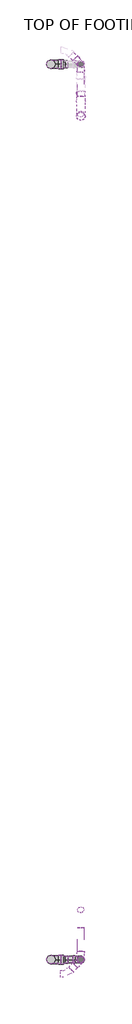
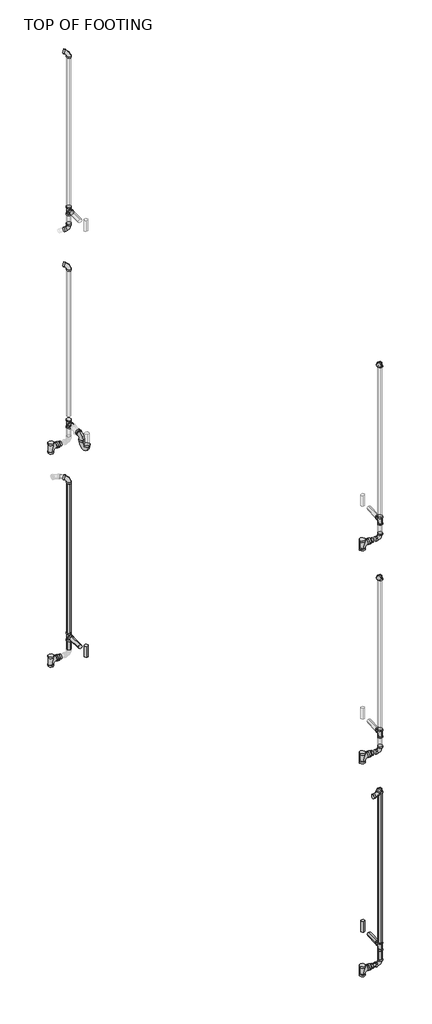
# One storey, part 1 of 8: 28 pipe fittings, 28 pipe segments.
"""IFC4 building model written with IfcOpenShell, lengths in millimetres."""

from ifc_helpers import new_model, si_unit, point, frame, frame_2d, origin, place, context, project, spatial, circle_curve, trimmed, segment, composite_curve, outline, extrude, transform, mapped, element, save
from components import bend_pvc_sch_40_dwv_standard_738aab8b, bend_pvc_sch_40_dwv_standard_9377f51f, bend_pvc_sch_40_dwv_standard_35af41d9, bend_pvc_sch_40_dwv_standard_e4da6302, bend_pvc_sch_40_dwv_standard_c28c2be1, reducer_pvc_sch_40_dwv_standard_b23fa098, reducer_pvc_sch_40_dwv_standard_f288b410, standard_73d07651, tee_sanitary_pvc_sch_40_dwv_standard_ad422280, tee_sanitary_pvc_sch_40_dwv_standard_7b7ecc20, tee_sanitary_pvc_sch_40_dwv_standard_3578d342, tee_sanitary_pvc_sch_40_dwv_standard_32d7fc6d

model = new_model("IFC4")

# Units and contexts
model_context = context("Model", 3, world=origin())
ifc_project = project(units=[si_unit("LENGTHUNIT", "METRE", prefix="MILLI")], contexts=[model_context])

# Site, building, storey
site = spatial("IfcSite", under=ifc_project)
building = spatial("IfcBuilding", under=site)
storey = spatial("IfcBuildingStorey", under=building, Name="TOP OF FOOTING", Elevation=-762.0)

# Pipe fittings
placement = place(None, origin())
bend_pvc_sch_40_dwv_standard_shape = bend_pvc_sch_40_dwv_standard_738aab8b(model_context)
element("IfcPipeFitting", 1, ObjectType="Bend - PVC - Sch 40 - DWV : Standard", at=placement, inside=storey, context=model_context, shape_type="MappedRepresentation", body=[
    mapped(bend_pvc_sch_40_dwv_standard_shape, transform((-4229.3040125, 8911.8581235, 6026.9617935), x_axis=(0.0, 0.0, -1.0), y_axis=(-1.0, 0.0, 0.0), z_axis=(0.0, 1.0, 0.0))),
])
bend_pvc_sch_40_dwv_standard_2_shape = bend_pvc_sch_40_dwv_standard_9377f51f(model_context)
element("IfcPipeFitting", 2, ObjectType="Bend - PVC - Sch 40 - DWV : Standard", at=placement, inside=storey, context=model_context, shape_type="MappedRepresentation", body=[
    mapped(bend_pvc_sch_40_dwv_standard_2_shape, transform((-4229.2912976, 8911.514858, 2682.6265087), x_axis=(0.0, 0.0, 1.0), y_axis=(-0.7070876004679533, 0.7071259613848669, 0.0), z_axis=(-0.7071259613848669, -0.7070876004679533, 0.0))),
])
element("IfcPipeFitting", 3, ObjectType="Bend - PVC - Sch 40 - DWV : Standard", at=placement, inside=storey, context=model_context, shape_type="MappedRepresentation", body=[
    mapped(bend_pvc_sch_40_dwv_standard_2_shape, transform((-4229.2912976, 8911.514858, 5527.4265087), x_axis=(0.0, 0.0, 1.0), y_axis=(-0.7070876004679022, 0.7071259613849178, 0.0), z_axis=(-0.7071259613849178, -0.7070876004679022, 0.0))),
])
element("IfcPipeFitting", 4, ObjectType="Bend - PVC - Sch 40 - DWV : Standard", at=placement, inside=storey, context=model_context, shape_type="MappedRepresentation", body=[
    mapped(bend_pvc_sch_40_dwv_standard_2_shape, transform((-4229.2947499, 8911.8595656, 8371.9619664), x_axis=(0.0, 0.0, 1.0), y_axis=(-0.7070876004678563, 0.7071259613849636, 0.0), z_axis=(-0.7071259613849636, -0.7070876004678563, 0.0))),
])
bend_pvc_sch_40_dwv_standard_3_shape = bend_pvc_sch_40_dwv_standard_35af41d9(model_context)
element("IfcPipeFitting", 5, ObjectType="Bend - PVC - Sch 40 - DWV : Standard", at=placement, inside=storey, context=model_context, shape_type="MappedRepresentation", body=[
    mapped(bend_pvc_sch_40_dwv_standard_3_shape, transform((-4229.3040125, 2089.7012881, 337.3617935), x_axis=(0.0, 0.0, -1.0), y_axis=(1.0, 0.0, 0.0), z_axis=(0.0, -1.0, 0.0))),
])
element("IfcPipeFitting", 6, ObjectType="Bend - PVC - Sch 40 - DWV : Standard", at=placement, inside=storey, context=model_context, shape_type="MappedRepresentation", body=[
    mapped(bend_pvc_sch_40_dwv_standard_3_shape, transform((-4229.3040125, 2089.7012881, 3182.1617935), x_axis=(0.0, 0.0, -1.0), y_axis=(1.0, 0.0, 0.0), z_axis=(0.0, -1.0, 0.0))),
])
element("IfcPipeFitting", 7, ObjectType="Bend - PVC - Sch 40 - DWV : Standard", at=placement, inside=storey, context=model_context, shape_type="MappedRepresentation", body=[
    mapped(bend_pvc_sch_40_dwv_standard_3_shape, transform((-4229.3040125, 2089.7012881, 6026.9617935), x_axis=(0.0, 0.0, -1.0), y_axis=(1.0, 0.0, 0.0), z_axis=(0.0, -1.0, 0.0))),
])
bend_pvc_sch_40_dwv_standard_4_shape = bend_pvc_sch_40_dwv_standard_e4da6302(model_context)
element("IfcPipeFitting", 8, ObjectType="Bend - PVC - Sch 40 - DWV : Standard", at=placement, inside=storey, context=model_context, shape_type="MappedRepresentation", body=[
    mapped(bend_pvc_sch_40_dwv_standard_4_shape, transform((-4229.2912976, 2089.6991493, 2682.6265087), x_axis=(0.0, 0.0, 1.0), y_axis=(0.7070876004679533, 0.7071259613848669, 0.0), z_axis=(-0.7071259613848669, 0.7070876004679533, 0.0))),
])
element("IfcPipeFitting", 9, ObjectType="Bend - PVC - Sch 40 - DWV : Standard", at=placement, inside=storey, context=model_context, shape_type="MappedRepresentation", body=[
    mapped(bend_pvc_sch_40_dwv_standard_4_shape, transform((-4229.2912976, 2089.6991493, 5527.4265087), x_axis=(0.0, 0.0, 1.0), y_axis=(0.7070876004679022, 0.7071259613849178, 0.0), z_axis=(-0.7071259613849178, 0.7070876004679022, 0.0))),
])
element("IfcPipeFitting", 10, ObjectType="Bend - PVC - Sch 40 - DWV : Standard", at=placement, inside=storey, context=model_context, shape_type="MappedRepresentation", body=[
    mapped(bend_pvc_sch_40_dwv_standard_4_shape, transform((-4229.2947499, 2089.699846, 8371.9619664), x_axis=(0.0, 0.0, 1.0), y_axis=(0.7070876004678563, 0.7071259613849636, 0.0), z_axis=(-0.7071259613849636, 0.7070876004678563, 0.0))),
])
bend_pvc_sch_40_dwv_standard_5_shape = bend_pvc_sch_40_dwv_standard_c28c2be1(model_context)
element("IfcPipeFitting", 11, ObjectType="Bend - PVC - Sch 40 - DWV : Standard", at=placement, inside=storey, context=model_context, shape_type="MappedRepresentation", body=[
    mapped(bend_pvc_sch_40_dwv_standard_5_shape, transform((-4337.0506636, 1981.9339371, 2683.7490021), x_axis=(-0.7070684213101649, -0.7071067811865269, 0.007365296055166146), y_axis=(0.7070684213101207, -0.7071067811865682, -0.007365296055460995), z_axis=(0.01041610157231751, 0.0, 0.9999457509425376))),
])
reducer_pvc_sch_40_dwv_standard_shape = reducer_pvc_sch_40_dwv_standard_b23fa098(model_context)
element("IfcPipeFitting", 12, ObjectType="Reducer - PVC - Sch 40 - DWV : Standard", at=placement, inside=storey, context=model_context, shape_type="MappedRepresentation", body=[
    mapped(reducer_pvc_sch_40_dwv_standard_shape, transform((-4379.3154518, 2089.7012881, 337.3617935), x_axis=(1.0, 0.0, 0.0), y_axis=(0.0, 1.0, 0.0), z_axis=(0.0, 0.0, 1.0))),
])
element("IfcPipeFitting", 13, ObjectType="Reducer - PVC - Sch 40 - DWV : Standard", at=placement, inside=storey, context=model_context, shape_type="MappedRepresentation", body=[
    mapped(reducer_pvc_sch_40_dwv_standard_shape, transform((-4379.3154518, 2089.7012881, 3182.1617935), x_axis=(1.0, 0.0, 0.0), y_axis=(0.0, 1.0, 0.0), z_axis=(0.0, 0.0, 1.0))),
])
element("IfcPipeFitting", 14, ObjectType="Reducer - PVC - Sch 40 - DWV : Standard", at=placement, inside=storey, context=model_context, shape_type="MappedRepresentation", body=[
    mapped(reducer_pvc_sch_40_dwv_standard_shape, transform((-4379.3154518, 2089.7012881, 6026.9617935), x_axis=(1.0, 0.0, 0.0), y_axis=(0.0, 1.0, 0.0), z_axis=(0.0, 0.0, 1.0))),
])
reducer_pvc_sch_40_dwv_standard_2_shape = reducer_pvc_sch_40_dwv_standard_f288b410(model_context)
element("IfcPipeFitting", 15, ObjectType="Reducer - PVC - Sch 40 - DWV : Standard", at=placement, inside=storey, context=model_context, shape_type="MappedRepresentation", body=[
    mapped(reducer_pvc_sch_40_dwv_standard_2_shape, transform((-4380.9038125, 8911.2827391, 337.3617935), x_axis=(1.0, 0.0, 0.0), y_axis=(0.0, 1.0, 0.0), z_axis=(0.0, 0.0, 1.0))),
])
element("IfcPipeFitting", 16, ObjectType="Reducer - PVC - Sch 40 - DWV : Standard", at=placement, inside=storey, context=model_context, shape_type="MappedRepresentation", body=[
    mapped(reducer_pvc_sch_40_dwv_standard_2_shape, transform((-4380.9038125, 8911.2827391, 3182.1617935), x_axis=(1.0, 0.0, 0.0), y_axis=(0.0, 1.0, 0.0), z_axis=(0.0, 0.0, 1.0))),
])
standard_shape = standard_73d07651(model_context)
element("IfcPipeFitting", 17, ObjectType="GES P TRAP PVC Sch 40 - DWV : Standard", at=placement, inside=storey, context=model_context, shape_type="MappedRepresentation", body=[
    mapped(standard_shape, transform((-4229.3040125, 8514.6387881, 3423.4617935), x_axis=(0.0, 0.0, -1.0), y_axis=(0.0, 1.0, 0.0), z_axis=(1.0, 0.0, 0.0))),
])
tee_sanitary_pvc_sch_40_dwv_standard_shape = tee_sanitary_pvc_sch_40_dwv_standard_ad422280(model_context)
element("IfcPipeFitting", 18, ObjectType="Tee Sanitary - PVC - Sch 40 - DWV : Standard", at=placement, inside=storey, context=model_context, shape_type="MappedRepresentation", body=[
    mapped(tee_sanitary_pvc_sch_40_dwv_standard_shape, transform((-4229.3040125, 8911.8581235, 6267.6170389), x_axis=(0.0, 0.0, 1.0), y_axis=(0.0, 1.0, 0.0), z_axis=(-1.0, 0.0, 0.0))),
])
element("IfcPipeFitting", 19, ObjectType="Tee Sanitary - PVC - Sch 40 - DWV : Standard", at=placement, inside=storey, context=model_context, shape_type="MappedRepresentation", body=[
    mapped(tee_sanitary_pvc_sch_40_dwv_standard_shape, transform((-4229.3040125, 8911.5127193, 3422.8170389), x_axis=(0.0, 0.0, 1.0), y_axis=(0.0, 1.0, 0.0), z_axis=(-1.0, 0.0, 0.0))),
])
element("IfcPipeFitting", 20, ObjectType="Tee Sanitary - PVC - Sch 40 - DWV : Standard", at=placement, inside=storey, context=model_context, shape_type="MappedRepresentation", body=[
    mapped(tee_sanitary_pvc_sch_40_dwv_standard_shape, transform((-4229.3040125, 8911.5127193, 578.0170389), x_axis=(0.0, 0.0, 1.0), y_axis=(0.0, 1.0, 0.0), z_axis=(-1.0, 0.0, 0.0))),
])
tee_sanitary_pvc_sch_40_dwv_standard_2_shape = tee_sanitary_pvc_sch_40_dwv_standard_7b7ecc20(model_context)
element("IfcPipeFitting", 21, ObjectType="Tee Sanitary - PVC - Sch 40 - DWV : Standard", at=placement, inside=storey, context=model_context, shape_type="MappedRepresentation", body=[
    mapped(tee_sanitary_pvc_sch_40_dwv_standard_2_shape, transform((-4458.7004914, 8911.2513726, 337.3617935), x_axis=(0.0, 0.0, 1.0), y_axis=(-1.0, 0.0, 0.0), z_axis=(0.0, -1.0, 0.0))),
])
element("IfcPipeFitting", 22, ObjectType="Tee Sanitary - PVC - Sch 40 - DWV : Standard", at=placement, inside=storey, context=model_context, shape_type="MappedRepresentation", body=[
    mapped(tee_sanitary_pvc_sch_40_dwv_standard_2_shape, transform((-4458.7004914, 8911.2513726, 3182.1617935), x_axis=(0.0, 0.0, 1.0), y_axis=(-1.0, 0.0, 0.0), z_axis=(0.0, -1.0, 0.0))),
])
tee_sanitary_pvc_sch_40_dwv_standard_3_shape = tee_sanitary_pvc_sch_40_dwv_standard_3578d342(model_context)
element("IfcPipeFitting", 23, ObjectType="Tee Sanitary - PVC - Sch 40 - DWV : Standard", at=placement, inside=storey, context=model_context, shape_type="MappedRepresentation", body=[
    mapped(tee_sanitary_pvc_sch_40_dwv_standard_3_shape, transform((-4229.3040125, 2089.7012881, 6267.6170389), x_axis=(0.0, 0.0, 1.0), y_axis=(0.0, 1.0, 0.0), z_axis=(-1.0, 0.0, 0.0))),
])
element("IfcPipeFitting", 24, ObjectType="Tee Sanitary - PVC - Sch 40 - DWV : Standard", at=placement, inside=storey, context=model_context, shape_type="MappedRepresentation", body=[
    mapped(tee_sanitary_pvc_sch_40_dwv_standard_3_shape, transform((-4229.3040125, 2089.7012881, 3422.8170389), x_axis=(0.0, 0.0, 1.0), y_axis=(0.0, 1.0, 0.0), z_axis=(-1.0, 0.0, 0.0))),
])
element("IfcPipeFitting", 25, ObjectType="Tee Sanitary - PVC - Sch 40 - DWV : Standard", at=placement, inside=storey, context=model_context, shape_type="MappedRepresentation", body=[
    mapped(tee_sanitary_pvc_sch_40_dwv_standard_3_shape, transform((-4229.3040125, 2089.7012881, 578.0170389), x_axis=(0.0, 0.0, 1.0), y_axis=(0.0, 1.0, 0.0), z_axis=(-1.0, 0.0, 0.0))),
])
tee_sanitary_pvc_sch_40_dwv_standard_4_shape = tee_sanitary_pvc_sch_40_dwv_standard_32d7fc6d(model_context)
element("IfcPipeFitting", 26, ObjectType="Tee Sanitary - PVC - Sch 40 - DWV : Standard", at=placement, inside=storey, context=model_context, shape_type="MappedRepresentation", body=[
    mapped(tee_sanitary_pvc_sch_40_dwv_standard_4_shape, transform((-4457.3676583, 2089.8980394, 337.3617935), x_axis=(0.0, 0.0, 1.0), y_axis=(1.0, 0.0, 0.0), z_axis=(0.0, 1.0, 0.0))),
])
element("IfcPipeFitting", 27, ObjectType="Tee Sanitary - PVC - Sch 40 - DWV : Standard", at=placement, inside=storey, context=model_context, shape_type="MappedRepresentation", body=[
    mapped(tee_sanitary_pvc_sch_40_dwv_standard_4_shape, transform((-4457.3676583, 2089.8980394, 3182.1617935), x_axis=(0.0, 0.0, 1.0), y_axis=(1.0, 0.0, 0.0), z_axis=(0.0, 1.0, 0.0))),
])
element("IfcPipeFitting", 28, ObjectType="Tee Sanitary - PVC - Sch 40 - DWV : Standard", at=placement, inside=storey, context=model_context, shape_type="MappedRepresentation", body=[
    mapped(tee_sanitary_pvc_sch_40_dwv_standard_4_shape, transform((-4457.3676583, 2089.8980394, 6026.9617935), x_axis=(0.0, 0.0, 1.0), y_axis=(1.0, 0.0, 0.0), z_axis=(0.0, 1.0, 0.0))),
])

# Pipe segments
element("IfcPipeSegment", 29, ObjectType="PVC - SAN/STORM", at=placement, inside=storey, context=model_context, shape_type="SweptSolid", body=[
    extrude(outline(composite_curve([segment(trimmed(circle_curve(frame_2d((6268.2617935, -4229.3040125)), 24.13), [point((6268.2617935, -4205.1740125))], [point((6292.3917935, -4229.3040125))], False, "CARTESIAN"), True, "CONTINUOUS"), segment(trimmed(circle_curve(frame_2d((6268.2617935, -4229.3040125)), 24.13), [point((6292.3917935, -4229.3040125))], [point((6268.2617935, -4253.4340125))], False, "CARTESIAN"), True, "CONTINUOUS"), segment(trimmed(circle_curve(frame_2d((6268.2617935, -4229.3040125)), 24.13), [point((6268.2617935, -4253.4340125))], [point((6244.1317935, -4229.3040125))], False, "CARTESIAN"), True, "CONTINUOUS"), segment(trimmed(circle_curve(frame_2d((6268.2617935, -4229.3040125)), 24.13), [point((6244.1317935, -4229.3040125))], [point((6268.2617935, -4205.1740125))], False, "CARTESIAN"), True, "CONTINUOUS")], self_intersect=False)), frame((0.0, 8665.4385881, 0.0), z_axis=(0.0, 1.0, 0.0), x_axis=(0.0, 0.0, 1.0)), (0.0, 0.0, 1.0), 184.5230934),
])
element("IfcPipeSegment", 30, ObjectType="PVC - SAN/STORM", at=placement, inside=storey, context=model_context, shape_type="SweptSolid", body=[
    extrude(outline(composite_curve([segment(trimmed(circle_curve(frame_2d((-4229.3040125, 8530.5137881)), 24.13), [point((-4253.4340125, 8530.5137881))], [point((-4229.3040125, 8554.6437881))], False, "CARTESIAN"), True, "CONTINUOUS"), segment(trimmed(circle_curve(frame_2d((-4229.3040125, 8530.5137881)), 24.13), [point((-4229.3040125, 8554.6437881))], [point((-4205.1740125, 8530.5137881))], False, "CARTESIAN"), True, "CONTINUOUS"), segment(trimmed(circle_curve(frame_2d((-4229.3040125, 8530.5137881)), 24.13), [point((-4205.1740125, 8530.5137881))], [point((-4229.3040125, 8506.3837881))], False, "CARTESIAN"), True, "CONTINUOUS"), segment(trimmed(circle_curve(frame_2d((-4229.3040125, 8530.5137881)), 24.13), [point((-4229.3040125, 8506.3837881))], [point((-4253.4340125, 8530.5137881))], False, "CARTESIAN"), True, "CONTINUOUS")], self_intersect=False)), frame((0.0, 0.0, 6223.7990935), z_axis=(0.0, 0.0, 1.0), x_axis=(1.0, 0.0, 0.0)), (0.0, 0.0, 1.0), 141.6019923),
])
element("IfcPipeSegment", 31, ObjectType="PVC - SAN/STORM", at=placement, inside=storey, context=model_context, shape_type="SweptSolid", body=[
    extrude(outline(composite_curve([segment(trimmed(circle_curve(frame_2d((-4229.3040125, 8911.8581235)), 24.13), [point((-4205.1740125, 8911.8581235))], [point((-4229.3040125, 8887.7281235))], False, "CARTESIAN"), True, "CONTINUOUS"), segment(trimmed(circle_curve(frame_2d((-4229.3040125, 8911.8581235)), 24.13), [point((-4229.3040125, 8887.7281235))], [point((-4253.4340125, 8911.8581235))], False, "CARTESIAN"), True, "CONTINUOUS"), segment(trimmed(circle_curve(frame_2d((-4229.3040125, 8911.8581235)), 24.13), [point((-4253.4340125, 8911.8581235))], [point((-4229.3040125, 8935.9881235))], False, "CARTESIAN"), True, "CONTINUOUS"), segment(trimmed(circle_curve(frame_2d((-4229.3040125, 8911.8581235)), 24.13), [point((-4229.3040125, 8935.9881235))], [point((-4205.1740125, 8911.8581235))], False, "CARTESIAN"), True, "CONTINUOUS")], self_intersect=False)), frame((0.0, 0.0, 6088.8615935), z_axis=(0.0, 0.0, 1.0), x_axis=(1.0, 0.0, 0.0)), (0.0, 0.0, 1.0), 116.8556454),
])
element("IfcPipeSegment", 32, ObjectType="PVC - SAN/STORM", at=placement, inside=storey, context=model_context, shape_type="SweptSolid", body=[
    extrude(outline(composite_curve([segment(trimmed(circle_curve(frame_2d((0.0, 24.13)), 24.13), [point((-24.13, 24.13))], [point((0.0, 48.26))], False, "CARTESIAN"), True, "CONTINUOUS"), segment(trimmed(circle_curve(frame_2d((0.0, 24.13)), 24.13), [point((0.0, 48.26))], [point((24.13, 24.13))], False, "CARTESIAN"), True, "CONTINUOUS"), segment(trimmed(circle_curve(frame_2d((0.0, 24.13)), 24.13), [point((24.13, 24.13))], [point((0.0, 0.0))], False, "CARTESIAN"), True, "CONTINUOUS"), segment(trimmed(circle_curve(frame_2d((0.0, 24.13)), 24.13), [point((0.0, 0.0))], [point((-24.13, 24.13))], False, "CARTESIAN"), True, "CONTINUOUS")], self_intersect=False)), frame((-4229.3040125, 8887.7281235, 6313.8112177), z_axis=(4.640019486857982e-06, 7.223967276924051e-07, 0.9999999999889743), x_axis=(0.9999999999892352, -3.350208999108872e-12, -4.640019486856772e-06)), (0.0, 0.0, 1.0), 1996.2509661),
])
element("IfcPipeSegment", 33, ObjectType="PVC - SAN/STORM", at=placement, inside=storey, context=model_context, shape_type="SweptSolid", body=[
    extrude(outline(composite_curve([segment(trimmed(circle_curve(frame_2d((-4229.3040125, 8514.6387881)), 30.1625), [point((-4259.4665125, 8514.6387881))], [point((-4229.3040125, 8544.8012881))], False, "CARTESIAN"), True, "CONTINUOUS"), segment(trimmed(circle_curve(frame_2d((-4229.3040125, 8514.6387881)), 30.1625), [point((-4229.3040125, 8544.8012881))], [point((-4199.1415125, 8514.6387881))], False, "CARTESIAN"), True, "CONTINUOUS"), segment(trimmed(circle_curve(frame_2d((-4229.3040125, 8514.6387881)), 30.1625), [point((-4199.1415125, 8514.6387881))], [point((-4229.3040125, 8484.4762881))], False, "CARTESIAN"), True, "CONTINUOUS"), segment(trimmed(circle_curve(frame_2d((-4229.3040125, 8514.6387881)), 30.1625), [point((-4229.3040125, 8484.4762881))], [point((-4259.4665125, 8514.6387881))], False, "CARTESIAN"), True, "CONTINUOUS")], self_intersect=False)), frame((0.0, 0.0, 3375.8367935), z_axis=(0.0, 0.0, 1.0), x_axis=(1.0, 0.0, 0.0)), (0.0, 0.0, 1.0), 144.7642923),
])
element("IfcPipeSegment", 34, ObjectType="PVC - SAN/STORM", at=placement, inside=storey, context=model_context, shape_type="SweptSolid", body=[
    extrude(outline(composite_curve([segment(trimmed(circle_curve(frame_2d((0.0, 24.13)), 24.13), [point((24.13, 24.13))], [point((0.0, 0.0))], False, "CARTESIAN"), True, "CONTINUOUS"), segment(trimmed(circle_curve(frame_2d((0.0, 24.13)), 24.13), [point((0.0, 0.0))], [point((-24.13, 24.13))], False, "CARTESIAN"), True, "CONTINUOUS"), segment(trimmed(circle_curve(frame_2d((0.0, 24.13)), 24.13), [point((-24.13, 24.13))], [point((0.0, 48.26))], False, "CARTESIAN"), True, "CONTINUOUS"), segment(trimmed(circle_curve(frame_2d((0.0, 24.13)), 24.13), [point((0.0, 48.26))], [point((24.13, 24.13))], False, "CARTESIAN"), True, "CONTINUOUS")], self_intersect=False)), frame((-4229.3040125, 8887.1527858, 3244.109083), z_axis=(0.0, 0.001968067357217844, 0.9999980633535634), x_axis=(1.0, 0.0, 0.0)), (0.0, 0.0, 1.0), 116.8558717),
])
element("IfcPipeSegment", 35, ObjectType="PVC - SAN/STORM", at=placement, inside=storey, context=model_context, shape_type="SweptSolid", body=[
    extrude(outline(composite_curve([segment(trimmed(circle_curve(frame_2d((0.0, -24.13)), 24.13), [point((-24.13, -24.13))], [point((0.0, 0.0))], False, "CARTESIAN"), True, "CONTINUOUS"), segment(trimmed(circle_curve(frame_2d((0.0, -24.13)), 24.13), [point((0.0, 0.0))], [point((24.13, -24.13))], False, "CARTESIAN"), True, "CONTINUOUS"), segment(trimmed(circle_curve(frame_2d((0.0, -24.13)), 24.13), [point((24.13, -24.13))], [point((0.0, -48.26))], False, "CARTESIAN"), True, "CONTINUOUS"), segment(trimmed(circle_curve(frame_2d((0.0, -24.13)), 24.13), [point((0.0, -48.26))], [point((-24.13, -24.13))], False, "CARTESIAN"), True, "CONTINUOUS")], self_intersect=False)), frame((-4229.2909033, 8887.3827748, 3520.8265346), z_axis=(-2.0271197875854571e-07, 1.0712312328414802e-06, 0.9999999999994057), x_axis=(-0.9999999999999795, 0.0, -2.0271197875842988e-07)), (0.0, 0.0, 1.0), 1944.7002),
])
element("IfcPipeSegment", 36, ObjectType="PVC - SAN/STORM", at=placement, inside=storey, context=model_context, shape_type="SweptSolid", body=[
    extrude(outline(composite_curve([segment(trimmed(circle_curve(frame_2d((578.6617935, -4229.3040125)), 24.13), [point((578.6617935, -4205.1740125))], [point((602.7917935, -4229.3040125))], False, "CARTESIAN"), True, "CONTINUOUS"), segment(trimmed(circle_curve(frame_2d((578.6617935, -4229.3040125)), 24.13), [point((602.7917935, -4229.3040125))], [point((578.6617935, -4253.4340125))], False, "CARTESIAN"), True, "CONTINUOUS"), segment(trimmed(circle_curve(frame_2d((578.6617935, -4229.3040125)), 24.13), [point((578.6617935, -4253.4340125))], [point((554.5317935, -4229.3040125))], False, "CARTESIAN"), True, "CONTINUOUS"), segment(trimmed(circle_curve(frame_2d((578.6617935, -4229.3040125)), 24.13), [point((554.5317935, -4229.3040125))], [point((578.6617935, -4205.1740125))], False, "CARTESIAN"), True, "CONTINUOUS")], self_intersect=False)), frame((0.0, 8665.4385881, 0.0), z_axis=(0.0, 1.0, 0.0), x_axis=(0.0, 0.0, 1.0)), (0.0, 0.0, 1.0), 184.1776893),
])
element("IfcPipeSegment", 37, ObjectType="PVC - SAN/STORM", at=placement, inside=storey, context=model_context, shape_type="SweptSolid", body=[
    extrude(outline(composite_curve([segment(trimmed(circle_curve(frame_2d((-4229.3040125, 8530.5137881)), 24.13), [point((-4253.4340125, 8530.5137881))], [point((-4229.3040125, 8554.6437881))], False, "CARTESIAN"), True, "CONTINUOUS"), segment(trimmed(circle_curve(frame_2d((-4229.3040125, 8530.5137881)), 24.13), [point((-4229.3040125, 8554.6437881))], [point((-4205.1740125, 8530.5137881))], False, "CARTESIAN"), True, "CONTINUOUS"), segment(trimmed(circle_curve(frame_2d((-4229.3040125, 8530.5137881)), 24.13), [point((-4205.1740125, 8530.5137881))], [point((-4229.3040125, 8506.3837881))], False, "CARTESIAN"), True, "CONTINUOUS"), segment(trimmed(circle_curve(frame_2d((-4229.3040125, 8530.5137881)), 24.13), [point((-4229.3040125, 8506.3837881))], [point((-4253.4340125, 8530.5137881))], False, "CARTESIAN"), True, "CONTINUOUS")], self_intersect=False)), frame((0.0, 0.0, 534.1990935), z_axis=(0.0, 0.0, 1.0), x_axis=(1.0, 0.0, 0.0)), (0.0, 0.0, 1.0), 141.6019923),
])
element("IfcPipeSegment", 38, ObjectType="PVC - SAN/STORM", at=placement, inside=storey, context=model_context, shape_type="SweptSolid", body=[
    extrude(outline(composite_curve([segment(trimmed(circle_curve(frame_2d((0.0, 24.13)), 24.13), [point((24.13, 24.13))], [point((0.0, 0.0))], False, "CARTESIAN"), True, "CONTINUOUS"), segment(trimmed(circle_curve(frame_2d((0.0, 24.13)), 24.13), [point((0.0, 0.0))], [point((-24.13, 24.13))], False, "CARTESIAN"), True, "CONTINUOUS"), segment(trimmed(circle_curve(frame_2d((0.0, 24.13)), 24.13), [point((-24.13, 24.13))], [point((0.0, 48.26))], False, "CARTESIAN"), True, "CONTINUOUS"), segment(trimmed(circle_curve(frame_2d((0.0, 24.13)), 24.13), [point((0.0, 48.26))], [point((24.13, 24.13))], False, "CARTESIAN"), True, "CONTINUOUS")], self_intersect=False)), frame((-4229.3040125, 8887.1527858, 399.309083), z_axis=(0.0, 0.0019680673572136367, 0.9999980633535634), x_axis=(1.0, 0.0, 0.0)), (0.0, 0.0, 1.0), 116.8558717),
])
element("IfcPipeSegment", 39, ObjectType="PVC - SAN/STORM", at=placement, inside=storey, context=model_context, shape_type="SweptSolid", body=[
    extrude(outline(composite_curve([segment(trimmed(circle_curve(frame_2d((0.0, 24.13)), 24.13), [point((-24.13, 24.13))], [point((0.0, 48.26))], False, "CARTESIAN"), True, "CONTINUOUS"), segment(trimmed(circle_curve(frame_2d((0.0, 24.13)), 24.13), [point((0.0, 48.26))], [point((24.13, 24.13))], False, "CARTESIAN"), True, "CONTINUOUS"), segment(trimmed(circle_curve(frame_2d((0.0, 24.13)), 24.13), [point((24.13, 24.13))], [point((0.0, 0.0))], False, "CARTESIAN"), True, "CONTINUOUS"), segment(trimmed(circle_curve(frame_2d((0.0, 24.13)), 24.13), [point((0.0, 0.0))], [point((-24.13, 24.13))], False, "CARTESIAN"), True, "CONTINUOUS")], self_intersect=False)), frame((-4229.3040125, 8887.3827193, 624.2112262), z_axis=(6.368583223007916e-06, 1.0712312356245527e-06, 0.9999999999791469), x_axis=(0.9999999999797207, -6.8212102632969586e-12, -6.368583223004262e-06)), (0.0, 0.0, 1.0), 1996.5155084),
])
element("IfcPipeSegment", 40, ObjectType="PVC - SAN/STORM", at=placement, inside=storey, context=model_context, shape_type="SweptSolid", body=[
    extrude(outline(composite_curve([segment(trimmed(circle_curve(frame_2d((0.0, 24.13)), 24.13), [point((24.1293456, 24.3077101))], [point((0.1777101, 0.0006544))], False, "CARTESIAN"), True, "CONTINUOUS"), segment(trimmed(circle_curve(frame_2d((0.0, 24.13)), 24.13), [point((0.1777101, 0.0006544))], [point((-24.1293456, 23.9522899))], False, "CARTESIAN"), True, "CONTINUOUS"), segment(trimmed(circle_curve(frame_2d((0.0, 24.13)), 24.13), [point((-24.1293456, 23.9522899))], [point((-0.1777102, 48.2593456))], False, "CARTESIAN"), True, "CONTINUOUS"), segment(trimmed(circle_curve(frame_2d((0.0, 24.13)), 24.13), [point((-0.1777102, 48.2593456))], [point((24.1293456, 24.3077101))], False, "CARTESIAN"), True, "CONTINUOUS")], self_intersect=False)), frame((-4273.0586914, 8955.0332995, 2707.2111102), z_axis=(-0.7070684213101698, 0.7071067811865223, 0.007365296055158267), x_axis=(0.7071451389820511, 0.7070300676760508, 0.007364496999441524)), (0.0, 0.0, 1.0), 42.234872),
])
element("IfcPipeSegment", 41, ObjectType="PVC - SAN/STORM", at=placement, inside=storey, context=model_context, shape_type="SweptSolid", body=[
    extrude(outline(composite_curve([segment(trimmed(circle_curve(frame_2d((0.0, -24.13)), 24.13), [point((-24.13, -24.13))], [point((0.0, 0.0))], False, "CARTESIAN"), True, "CONTINUOUS"), segment(trimmed(circle_curve(frame_2d((0.0, -24.13)), 24.13), [point((0.0, 0.0))], [point((24.13, -24.13))], False, "CARTESIAN"), True, "CONTINUOUS"), segment(trimmed(circle_curve(frame_2d((0.0, -24.13)), 24.13), [point((24.13, -24.13))], [point((0.0, -48.2600001))], False, "CARTESIAN"), True, "CONTINUOUS"), segment(trimmed(circle_curve(frame_2d((0.0, -24.13)), 24.13), [point((0.0, -48.2600001))], [point((-24.13, -24.13))], False, "CARTESIAN"), True, "CONTINUOUS")], self_intersect=False)), frame((-4229.3040125, 2151.8490706, 6244.1331025), z_axis=(0.0, 0.9999457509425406, 0.01041610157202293), x_axis=(1.0, 0.0, 0.0)), (0.0, 0.0, 1.0), 182.6011639),
])
element("IfcPipeSegment", 42, ObjectType="PVC - SAN/STORM", at=placement, inside=storey, context=model_context, shape_type="SweptSolid", body=[
    extrude(outline(composite_curve([segment(trimmed(circle_curve(frame_2d((-4229.3040125, 2469.1137881)), 24.13), [point((-4253.4340125, 2469.1137881))], [point((-4229.3040125, 2493.2437881))], False, "CARTESIAN"), True, "CONTINUOUS"), segment(trimmed(circle_curve(frame_2d((-4229.3040125, 2469.1137881)), 24.13), [point((-4229.3040125, 2493.2437881))], [point((-4205.1740125, 2469.1137881))], False, "CARTESIAN"), True, "CONTINUOUS"), segment(trimmed(circle_curve(frame_2d((-4229.3040125, 2469.1137881)), 24.13), [point((-4205.1740125, 2469.1137881))], [point((-4229.3040125, 2444.9837881))], False, "CARTESIAN"), True, "CONTINUOUS"), segment(trimmed(circle_curve(frame_2d((-4229.3040125, 2469.1137881)), 24.13), [point((-4229.3040125, 2444.9837881))], [point((-4253.4340125, 2469.1137881))], False, "CARTESIAN"), True, "CONTINUOUS")], self_intersect=False)), frame((0.0, 0.0, 6225.7010858), z_axis=(0.0, 0.0, 1.0), x_axis=(1.0, 0.0, 0.0)), (0.0, 0.0, 1.0), 139.7),
])
element("IfcPipeSegment", 43, ObjectType="PVC - SAN/STORM", at=placement, inside=storey, context=model_context, shape_type="SweptSolid", body=[
    extrude(outline(composite_curve([segment(trimmed(circle_curve(frame_2d((2089.7012881, 6026.9617935)), 24.13), [point((2113.8312881, 6026.9617935))], [point((2089.7012881, 6002.8317935))], False, "CARTESIAN"), True, "CONTINUOUS"), segment(trimmed(circle_curve(frame_2d((2089.7012881, 6026.9617935)), 24.13), [point((2089.7012881, 6002.8317935))], [point((2065.5712881, 6026.9617935))], False, "CARTESIAN"), True, "CONTINUOUS"), segment(trimmed(circle_curve(frame_2d((2089.7012881, 6026.9617935)), 24.13), [point((2065.5712881, 6026.9617935))], [point((2089.7012881, 6051.0917935))], False, "CARTESIAN"), True, "CONTINUOUS"), segment(trimmed(circle_curve(frame_2d((2089.7012881, 6026.9617935)), 24.13), [point((2089.7012881, 6051.0917935))], [point((2113.8312881, 6026.9617935))], False, "CARTESIAN"), True, "CONTINUOUS")], self_intersect=False)), frame((-4329.3282518, 0.0, 0.0), z_axis=(1.0, 0.0, 0.0), x_axis=(0.0, 1.0, 0.0)), (0.0, 0.0, 1.0), 38.1244393),
])
element("IfcPipeSegment", 44, ObjectType="PVC - SAN/STORM", at=placement, inside=storey, context=model_context, shape_type="SweptSolid", body=[
    extrude(outline(composite_curve([segment(trimmed(circle_curve(frame_2d((-4229.3040125, 2089.7012881)), 24.13), [point((-4205.1740125, 2089.7012881))], [point((-4229.3040125, 2065.5712881))], False, "CARTESIAN"), True, "CONTINUOUS"), segment(trimmed(circle_curve(frame_2d((-4229.3040125, 2089.7012881)), 24.13), [point((-4229.3040125, 2065.5712881))], [point((-4253.4340125, 2089.7012881))], False, "CARTESIAN"), True, "CONTINUOUS"), segment(trimmed(circle_curve(frame_2d((-4229.3040125, 2089.7012881)), 24.13), [point((-4253.4340125, 2089.7012881))], [point((-4229.3040125, 2113.8312881))], False, "CARTESIAN"), True, "CONTINUOUS"), segment(trimmed(circle_curve(frame_2d((-4229.3040125, 2089.7012881)), 24.13), [point((-4229.3040125, 2113.8312881))], [point((-4205.1740125, 2089.7012881))], False, "CARTESIAN"), True, "CONTINUOUS")], self_intersect=False)), frame((0.0, 0.0, 6088.8615935), z_axis=(0.0, 0.0, 1.0), x_axis=(1.0, 0.0, 0.0)), (0.0, 0.0, 1.0), 116.8556454),
])
element("IfcPipeSegment", 45, ObjectType="PVC - SAN/STORM", at=placement, inside=storey, context=model_context, shape_type="SweptSolid", body=[
    extrude(outline(composite_curve([segment(trimmed(circle_curve(frame_2d((0.0, 24.13)), 24.13), [point((-24.13, 24.13))], [point((0.0, 48.26))], False, "CARTESIAN"), True, "CONTINUOUS"), segment(trimmed(circle_curve(frame_2d((0.0, 24.13)), 24.13), [point((0.0, 48.26))], [point((24.13, 24.13))], False, "CARTESIAN"), True, "CONTINUOUS"), segment(trimmed(circle_curve(frame_2d((0.0, 24.13)), 24.13), [point((24.13, 24.13))], [point((0.0, 0.0))], False, "CARTESIAN"), True, "CONTINUOUS"), segment(trimmed(circle_curve(frame_2d((0.0, 24.13)), 24.13), [point((0.0, 0.0))], [point((-24.13, 24.13))], False, "CARTESIAN"), True, "CONTINUOUS")], self_intersect=False)), frame((-4229.3040125, 2065.5712881, 6313.8111829), z_axis=(4.640019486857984e-06, -7.223967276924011e-07, 0.9999999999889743), x_axis=(0.9999999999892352, 3.3519853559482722e-12, -4.640019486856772e-06)), (0.0, 0.0, 1.0), 1996.2509661),
])
element("IfcPipeSegment", 46, ObjectType="PVC - SAN/STORM", at=placement, inside=storey, context=model_context, shape_type="SweptSolid", body=[
    extrude(outline(composite_curve([segment(trimmed(circle_curve(frame_2d((0.0, -24.13)), 24.13), [point((-24.13, -24.13))], [point((0.0, 0.0))], False, "CARTESIAN"), True, "CONTINUOUS"), segment(trimmed(circle_curve(frame_2d((0.0, -24.13)), 24.13), [point((0.0, 0.0))], [point((24.13, -24.13))], False, "CARTESIAN"), True, "CONTINUOUS"), segment(trimmed(circle_curve(frame_2d((0.0, -24.13)), 24.13), [point((24.13, -24.13))], [point((0.0, -48.2600001))], False, "CARTESIAN"), True, "CONTINUOUS"), segment(trimmed(circle_curve(frame_2d((0.0, -24.13)), 24.13), [point((0.0, -48.2600001))], [point((-24.13, -24.13))], False, "CARTESIAN"), True, "CONTINUOUS")], self_intersect=False)), frame((-4229.3040125, 2151.8490706, 3399.3331025), z_axis=(0.0, 0.9999457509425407, 0.010416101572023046), x_axis=(1.0, 0.0, 0.0)), (0.0, 0.0, 1.0), 182.6011639),
])
element("IfcPipeSegment", 47, ObjectType="PVC - SAN/STORM", at=placement, inside=storey, context=model_context, shape_type="SweptSolid", body=[
    extrude(outline(composite_curve([segment(trimmed(circle_curve(frame_2d((-4229.3040125, 2469.1137881)), 24.13), [point((-4253.4340125, 2469.1137881))], [point((-4229.3040125, 2493.2437881))], False, "CARTESIAN"), True, "CONTINUOUS"), segment(trimmed(circle_curve(frame_2d((-4229.3040125, 2469.1137881)), 24.13), [point((-4229.3040125, 2493.2437881))], [point((-4205.1740125, 2469.1137881))], False, "CARTESIAN"), True, "CONTINUOUS"), segment(trimmed(circle_curve(frame_2d((-4229.3040125, 2469.1137881)), 24.13), [point((-4205.1740125, 2469.1137881))], [point((-4229.3040125, 2444.9837881))], False, "CARTESIAN"), True, "CONTINUOUS"), segment(trimmed(circle_curve(frame_2d((-4229.3040125, 2469.1137881)), 24.13), [point((-4229.3040125, 2444.9837881))], [point((-4253.4340125, 2469.1137881))], False, "CARTESIAN"), True, "CONTINUOUS")], self_intersect=False)), frame((0.0, 0.0, 3380.9010858), z_axis=(0.0, 0.0, 1.0), x_axis=(1.0, 0.0, 0.0)), (0.0, 0.0, 1.0), 139.7),
])
element("IfcPipeSegment", 48, ObjectType="PVC - SAN/STORM", at=placement, inside=storey, context=model_context, shape_type="SweptSolid", body=[
    extrude(outline(composite_curve([segment(trimmed(circle_curve(frame_2d((2089.7012881, 3182.1617935)), 24.13), [point((2113.8312881, 3182.1617935))], [point((2089.7012881, 3158.0317935))], False, "CARTESIAN"), True, "CONTINUOUS"), segment(trimmed(circle_curve(frame_2d((2089.7012881, 3182.1617935)), 24.13), [point((2089.7012881, 3158.0317935))], [point((2065.5712881, 3182.1617935))], False, "CARTESIAN"), True, "CONTINUOUS"), segment(trimmed(circle_curve(frame_2d((2089.7012881, 3182.1617935)), 24.13), [point((2065.5712881, 3182.1617935))], [point((2089.7012881, 3206.2917935))], False, "CARTESIAN"), True, "CONTINUOUS"), segment(trimmed(circle_curve(frame_2d((2089.7012881, 3182.1617935)), 24.13), [point((2089.7012881, 3206.2917935))], [point((2113.8312881, 3182.1617935))], False, "CARTESIAN"), True, "CONTINUOUS")], self_intersect=False)), frame((-4329.3282518, 0.0, 0.0), z_axis=(1.0, 0.0, 0.0), x_axis=(0.0, 1.0, 0.0)), (0.0, 0.0, 1.0), 38.1244393),
])
element("IfcPipeSegment", 49, ObjectType="PVC - SAN/STORM", at=placement, inside=storey, context=model_context, shape_type="SweptSolid", body=[
    extrude(outline(composite_curve([segment(trimmed(circle_curve(frame_2d((-4229.3040125, 2089.7012881)), 24.13), [point((-4205.1740125, 2089.7012881))], [point((-4229.3040125, 2065.5712881))], False, "CARTESIAN"), True, "CONTINUOUS"), segment(trimmed(circle_curve(frame_2d((-4229.3040125, 2089.7012881)), 24.13), [point((-4229.3040125, 2065.5712881))], [point((-4253.4340125, 2089.7012881))], False, "CARTESIAN"), True, "CONTINUOUS"), segment(trimmed(circle_curve(frame_2d((-4229.3040125, 2089.7012881)), 24.13), [point((-4253.4340125, 2089.7012881))], [point((-4229.3040125, 2113.8312881))], False, "CARTESIAN"), True, "CONTINUOUS"), segment(trimmed(circle_curve(frame_2d((-4229.3040125, 2089.7012881)), 24.13), [point((-4229.3040125, 2113.8312881))], [point((-4205.1740125, 2089.7012881))], False, "CARTESIAN"), True, "CONTINUOUS")], self_intersect=False)), frame((0.0, 0.0, 3244.0615935), z_axis=(0.0, 0.0, 1.0), x_axis=(1.0, 0.0, 0.0)), (0.0, 0.0, 1.0), 116.8556454),
])
element("IfcPipeSegment", 50, ObjectType="PVC - SAN/STORM", at=placement, inside=storey, context=model_context, shape_type="SweptSolid", body=[
    extrude(outline(composite_curve([segment(trimmed(circle_curve(frame_2d((0.0, 24.13)), 24.13), [point((-24.13, 24.13))], [point((0.0, 48.26))], False, "CARTESIAN"), True, "CONTINUOUS"), segment(trimmed(circle_curve(frame_2d((0.0, 24.13)), 24.13), [point((0.0, 48.26))], [point((24.13, 24.13))], False, "CARTESIAN"), True, "CONTINUOUS"), segment(trimmed(circle_curve(frame_2d((0.0, 24.13)), 24.13), [point((24.13, 24.13))], [point((0.0, 0.0))], False, "CARTESIAN"), True, "CONTINUOUS"), segment(trimmed(circle_curve(frame_2d((0.0, 24.13)), 24.13), [point((0.0, 0.0))], [point((-24.13, 24.13))], False, "CARTESIAN"), True, "CONTINUOUS")], self_intersect=False)), frame((-4229.3040125, 2065.5712881, 3469.0111745), z_axis=(6.368583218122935e-06, -1.0712312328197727e-06, 0.9999999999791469), x_axis=(0.9999999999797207, 6.822098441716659e-12, -6.368583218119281e-06)), (0.0, 0.0, 1.0), 1996.5155084),
])
element("IfcPipeSegment", 51, ObjectType="PVC - SAN/STORM", at=placement, inside=storey, context=model_context, shape_type="SweptSolid", body=[
    extrude(outline(composite_curve([segment(trimmed(circle_curve(frame_2d((0.0, -24.13)), 24.13), [point((-24.13, -24.13))], [point((0.0, 0.0))], False, "CARTESIAN"), True, "CONTINUOUS"), segment(trimmed(circle_curve(frame_2d((0.0, -24.13)), 24.13), [point((0.0, 0.0))], [point((24.13, -24.13))], False, "CARTESIAN"), True, "CONTINUOUS"), segment(trimmed(circle_curve(frame_2d((0.0, -24.13)), 24.13), [point((24.13, -24.13))], [point((0.0, -48.2600001))], False, "CARTESIAN"), True, "CONTINUOUS"), segment(trimmed(circle_curve(frame_2d((0.0, -24.13)), 24.13), [point((0.0, -48.2600001))], [point((-24.13, -24.13))], False, "CARTESIAN"), True, "CONTINUOUS")], self_intersect=False)), frame((-4229.3040125, 2151.8490706, 554.5331025), z_axis=(0.0, 0.9999457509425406, 0.010416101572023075), x_axis=(1.0, 0.0, 0.0)), (0.0, 0.0, 1.0), 182.6011639),
])
element("IfcPipeSegment", 52, ObjectType="PVC - SAN/STORM", at=placement, inside=storey, context=model_context, shape_type="SweptSolid", body=[
    extrude(outline(composite_curve([segment(trimmed(circle_curve(frame_2d((-4229.3040125, 2469.1137881)), 24.13), [point((-4253.4340125, 2469.1137881))], [point((-4229.3040125, 2493.2437881))], False, "CARTESIAN"), True, "CONTINUOUS"), segment(trimmed(circle_curve(frame_2d((-4229.3040125, 2469.1137881)), 24.13), [point((-4229.3040125, 2493.2437881))], [point((-4205.1740125, 2469.1137881))], False, "CARTESIAN"), True, "CONTINUOUS"), segment(trimmed(circle_curve(frame_2d((-4229.3040125, 2469.1137881)), 24.13), [point((-4205.1740125, 2469.1137881))], [point((-4229.3040125, 2444.9837881))], False, "CARTESIAN"), True, "CONTINUOUS"), segment(trimmed(circle_curve(frame_2d((-4229.3040125, 2469.1137881)), 24.13), [point((-4229.3040125, 2444.9837881))], [point((-4253.4340125, 2469.1137881))], False, "CARTESIAN"), True, "CONTINUOUS")], self_intersect=False)), frame((0.0, 0.0, 536.1010858), z_axis=(0.0, 0.0, 1.0), x_axis=(1.0, 0.0, 0.0)), (0.0, 0.0, 1.0), 139.7),
])
element("IfcPipeSegment", 53, ObjectType="PVC - SAN/STORM", at=placement, inside=storey, context=model_context, shape_type="SweptSolid", body=[
    extrude(outline(composite_curve([segment(trimmed(circle_curve(frame_2d((2089.7012881, 337.3617935)), 24.13), [point((2113.8312881, 337.3617935))], [point((2089.7012881, 313.2317935))], False, "CARTESIAN"), True, "CONTINUOUS"), segment(trimmed(circle_curve(frame_2d((2089.7012881, 337.3617935)), 24.13), [point((2089.7012881, 313.2317935))], [point((2065.5712881, 337.3617935))], False, "CARTESIAN"), True, "CONTINUOUS"), segment(trimmed(circle_curve(frame_2d((2089.7012881, 337.3617935)), 24.13), [point((2065.5712881, 337.3617935))], [point((2089.7012881, 361.4917935))], False, "CARTESIAN"), True, "CONTINUOUS"), segment(trimmed(circle_curve(frame_2d((2089.7012881, 337.3617935)), 24.13), [point((2089.7012881, 361.4917935))], [point((2113.8312881, 337.3617935))], False, "CARTESIAN"), True, "CONTINUOUS")], self_intersect=False)), frame((-4329.3282518, 0.0, 0.0), z_axis=(1.0, 0.0, 0.0), x_axis=(0.0, 1.0, 0.0)), (0.0, 0.0, 1.0), 38.1244393),
])
element("IfcPipeSegment", 54, ObjectType="PVC - SAN/STORM", at=placement, inside=storey, context=model_context, shape_type="SweptSolid", body=[
    extrude(outline(composite_curve([segment(trimmed(circle_curve(frame_2d((-4229.3040125, 2089.7012881)), 24.13), [point((-4205.1740125, 2089.7012881))], [point((-4229.3040125, 2065.5712881))], False, "CARTESIAN"), True, "CONTINUOUS"), segment(trimmed(circle_curve(frame_2d((-4229.3040125, 2089.7012881)), 24.13), [point((-4229.3040125, 2065.5712881))], [point((-4253.4340125, 2089.7012881))], False, "CARTESIAN"), True, "CONTINUOUS"), segment(trimmed(circle_curve(frame_2d((-4229.3040125, 2089.7012881)), 24.13), [point((-4253.4340125, 2089.7012881))], [point((-4229.3040125, 2113.8312881))], False, "CARTESIAN"), True, "CONTINUOUS"), segment(trimmed(circle_curve(frame_2d((-4229.3040125, 2089.7012881)), 24.13), [point((-4229.3040125, 2113.8312881))], [point((-4205.1740125, 2089.7012881))], False, "CARTESIAN"), True, "CONTINUOUS")], self_intersect=False)), frame((0.0, 0.0, 399.2615935), z_axis=(0.0, 0.0, 1.0), x_axis=(1.0, 0.0, 0.0)), (0.0, 0.0, 1.0), 116.8556454),
])
element("IfcPipeSegment", 55, ObjectType="PVC - SAN/STORM", at=placement, inside=storey, context=model_context, shape_type="SweptSolid", body=[
    extrude(outline(composite_curve([segment(trimmed(circle_curve(frame_2d((0.0, 24.13)), 24.13), [point((-24.13, 24.13))], [point((0.0, 48.26))], False, "CARTESIAN"), True, "CONTINUOUS"), segment(trimmed(circle_curve(frame_2d((0.0, 24.13)), 24.13), [point((0.0, 48.26))], [point((24.13, 24.13))], False, "CARTESIAN"), True, "CONTINUOUS"), segment(trimmed(circle_curve(frame_2d((0.0, 24.13)), 24.13), [point((24.13, 24.13))], [point((0.0, 0.0))], False, "CARTESIAN"), True, "CONTINUOUS"), segment(trimmed(circle_curve(frame_2d((0.0, 24.13)), 24.13), [point((0.0, 0.0))], [point((-24.13, 24.13))], False, "CARTESIAN"), True, "CONTINUOUS")], self_intersect=False)), frame((-4229.3040125, 2065.5712881, 624.2111745), z_axis=(6.3685832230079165e-06, -1.0712312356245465e-06, 0.9999999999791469), x_axis=(0.9999999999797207, 6.822098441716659e-12, -6.368583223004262e-06)), (0.0, 0.0, 1.0), 1996.5155084),
])
element("IfcPipeSegment", 56, ObjectType="PVC - SAN/STORM", at=placement, inside=storey, context=model_context, shape_type="SweptSolid", body=[
    extrude(outline(composite_curve([segment(trimmed(circle_curve(frame_2d((0.0, 24.1300001)), 24.13), [point((-24.1293456, 24.3077102))], [point((0.1777101, 48.2593457))], False, "CARTESIAN"), True, "CONTINUOUS"), segment(trimmed(circle_curve(frame_2d((0.0, 24.1300001)), 24.13), [point((0.1777101, 48.2593457))], [point((24.1293456, 23.95229))], False, "CARTESIAN"), True, "CONTINUOUS"), segment(trimmed(circle_curve(frame_2d((0.0, 24.1300001)), 24.13), [point((24.1293456, 23.95229))], [point((-0.1777101, 0.0006545))], False, "CARTESIAN"), True, "CONTINUOUS"), segment(trimmed(circle_curve(frame_2d((0.0, 24.1300001)), 24.13), [point((-0.1777101, 0.0006545))], [point((-24.1293456, 24.3077102))], False, "CARTESIAN"), True, "CONTINUOUS")], self_intersect=False)), frame((-4273.0586914, 2045.6780541, 2658.9537279), z_axis=(-0.7070684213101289, -0.7071067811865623, 0.007365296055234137), x_axis=(0.7071451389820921, -0.7070300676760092, 0.007364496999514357)), (0.0, 0.0, 1.0), 44.4784246),
])

save(model, "model.ifc")
